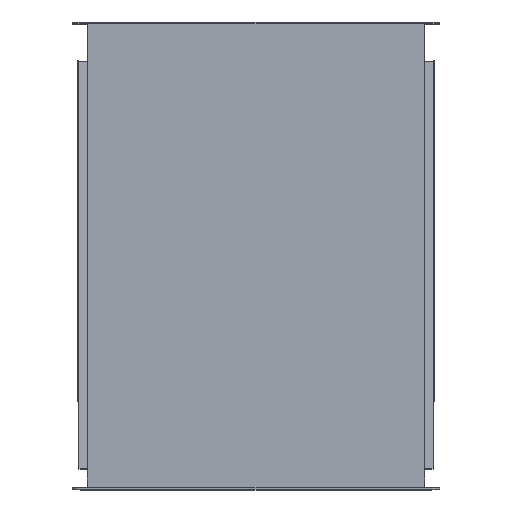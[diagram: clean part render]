
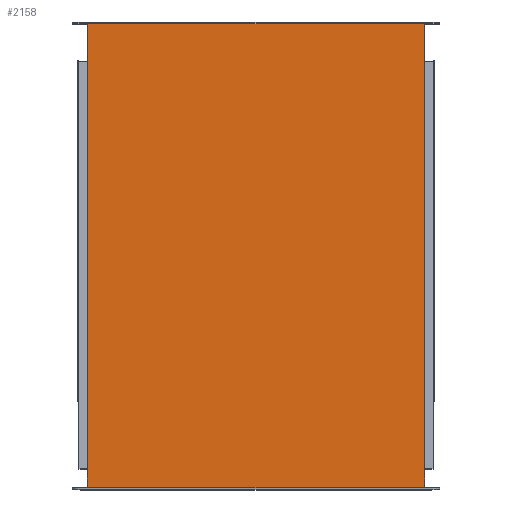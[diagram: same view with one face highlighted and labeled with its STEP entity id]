
A CAD part, top view. The second image highlights one B-rep face of the part: STEP entity #2158.
In plain terms, the highlighted planar face has unit normal (0, 0, 1).
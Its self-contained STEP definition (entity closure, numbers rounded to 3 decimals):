
#156=FACE_OUTER_BOUND('',#271,.T.);
#271=EDGE_LOOP('',(#1548,#1549,#1550,#1551));
#440=LINE('',#3209,#694);
#441=LINE('',#3211,#695);
#442=LINE('',#3213,#696);
#443=LINE('',#3214,#697);
#694=VECTOR('',#2599,10.);
#695=VECTOR('',#2600,10.);
#696=VECTOR('',#2601,10.);
#697=VECTOR('',#2602,10.);
#949=VERTEX_POINT('',#3207);
#950=VERTEX_POINT('',#3208);
#951=VERTEX_POINT('',#3210);
#952=VERTEX_POINT('',#3212);
#1180=EDGE_CURVE('',#949,#950,#440,.T.);
#1181=EDGE_CURVE('',#951,#950,#441,.T.);
#1182=EDGE_CURVE('',#951,#952,#442,.T.);
#1183=EDGE_CURVE('',#952,#949,#443,.F.);
#1548=ORIENTED_EDGE('',*,*,#1180,.T.);
#1549=ORIENTED_EDGE('',*,*,#1181,.F.);
#1550=ORIENTED_EDGE('',*,*,#1182,.T.);
#1551=ORIENTED_EDGE('',*,*,#1183,.T.);
#2059=PLANE('',#2317);
#2158=ADVANCED_FACE('',(#156),#2059,.T.);
#2317=AXIS2_PLACEMENT_3D('',#3206,#2597,#2598);
#2597=DIRECTION('center_axis',(0.,0.,1.));
#2598=DIRECTION('ref_axis',(1.,0.,0.));
#2599=DIRECTION('',(-1.,0.,0.));
#2600=DIRECTION('',(0.,1.,0.));
#2601=DIRECTION('',(1.,0.,0.));
#2602=DIRECTION('',(0.,-1.,0.));
#3206=CARTESIAN_POINT('Origin',(-200.,-280.,102.));
#3207=CARTESIAN_POINT('',(202.,278.,102.));
#3208=CARTESIAN_POINT('',(-202.,278.,102.));
#3209=CARTESIAN_POINT('',(-100.,278.,102.));
#3210=CARTESIAN_POINT('',(-202.,-278.,102.));
#3211=CARTESIAN_POINT('',(-202.,-280.,102.));
#3212=CARTESIAN_POINT('',(202.,-278.,102.));
#3213=CARTESIAN_POINT('',(-100.,-278.,102.));
#3214=CARTESIAN_POINT('',(202.,-280.,102.));
